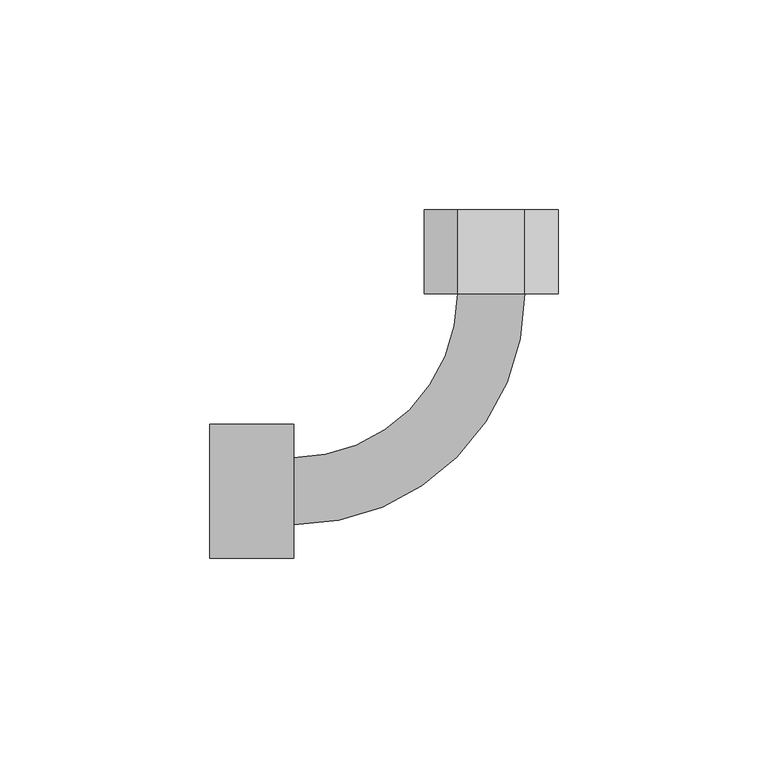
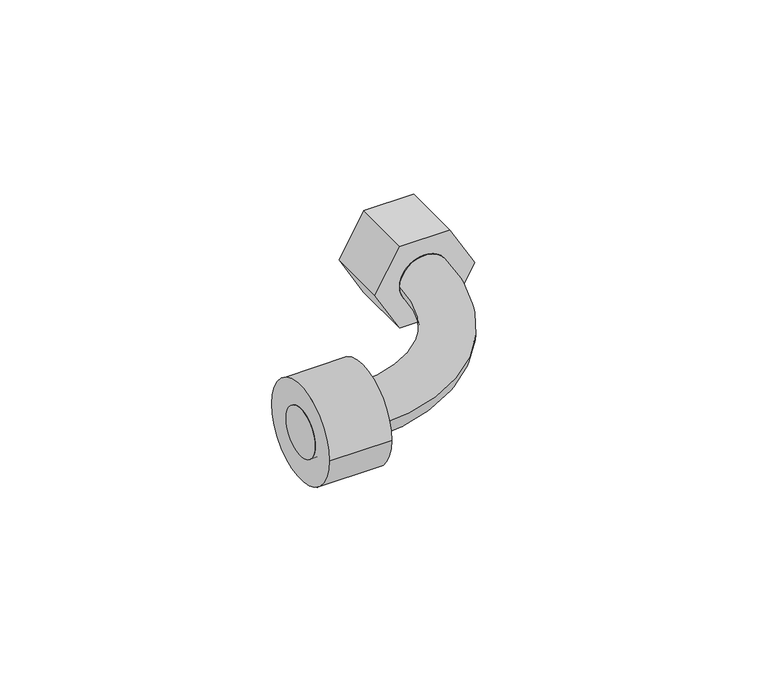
"""IFC4 building model written with IfcOpenShell, lengths in millimetres: cable carrier fitting geometry, Муфта гибкая труба-коробка CXS : Муфта гибкая труба-коробка CXS."""

from ifc_helpers import new_model, si_unit, point, frame, origin, origin_2d, place, context, project, spatial, polyline, circle_curve, ellipse_curve, trimmed, segment, composite_curve, outline, extrude, source, transform, mapped, element, save
from ifc_brep_helpers import plane_surface, cylinder_surface, revolved_surface, advanced_brep


def cable_carrier_fitting_6bc16285(model_context):
    return source(origin(), model_context, "Body", "SolidModel", [
        advanced_brep(
        [(-67.0814, -7.99973, 0.0), (-67.0814, 7.99973, 0.0), (-47.0916, -7.99973, 0.0), (-47.0916, 7.99973, 0.0), (-7.99973, 47.0916, 0.0), (7.99973, 47.0916, 0.0), (7.99973, 67.0814, 0.0), (-7.99973, 67.0814, 0.0)],
        [
            (0, 1, circle_curve(frame((-67.0814, 0.0, 0.0), z_axis=(-1.0, 0.0, 0.0), x_axis=(0.0, 1.0, 0.0)), 7.99973)),
            (1, 0, circle_curve(frame((-67.0814, 0.0, 0.0), z_axis=(-1.0, 0.0, 0.0), x_axis=(0.0, 1.0, 0.0)), 7.99973)),
            (0, 2),
            (2, 3, circle_curve(frame((-47.0916, 0.0, 0.0), z_axis=(-1.0, 0.0, 0.0), x_axis=(0.0, 1.0, 0.0)), 7.99973)),
            (3, 1),
            (3, 2, circle_curve(frame((-47.0916, 0.0, 0.0), z_axis=(-1.0, 0.0, 0.0), x_axis=(0.0, 1.0, 0.0)), 7.99973)),
            (4, 3, circle_curve(frame((-47.0916, 47.0916, 0.0), z_axis=(0.0, 0.0, -1.0), x_axis=(0.0, -1.0, 0.0)), 39.09187)),
            (2, 5, circle_curve(frame((-47.0916, 47.0916, 0.0), z_axis=(0.0, 0.0, 1.0), x_axis=(0.0, -1.0, 0.0)), 55.09133)),
            (5, 4, circle_curve(frame((0.0, 47.0916, 0.0), z_axis=(0.0, -1.0, 0.0), x_axis=(-1.0, 0.0, 0.0)), 7.99973)),
            (4, 5, circle_curve(frame((0.0, 47.0916, 0.0), z_axis=(0.0, -1.0, 0.0), x_axis=(-1.0, 0.0, 0.0)), 7.99973)),
            (6, 7, circle_curve(frame((0.0, 67.0814, 0.0), z_axis=(0.0, 1.0, 0.0), x_axis=(-1.0, 0.0, 0.0)), 7.99973)),
            (7, 6, circle_curve(frame((0.0, 67.0814, 0.0), z_axis=(0.0, 1.0, 0.0), x_axis=(-1.0, 0.0, 0.0)), 7.99973)),
            (5, 6),
            (7, 4),
        ],
        [
            plane_surface(frame((-67.0814, 0.0, 0.0), z_axis=(-1.0, 0.0, 0.0), x_axis=(0.0, 0.0, 1.0))),
            cylinder_surface(frame((-67.0814, 0.0, 0.0), z_axis=(-1.0, 0.0, 0.0), x_axis=(0.0, 1.0, 0.0)), 7.99973),
            revolved_surface(trimmed(ellipse_curve(frame((-47.0916, 0.0, 0.0), z_axis=(-1.0, 0.0, 0.0), x_axis=(0.0, 1.0, 0.0)), 7.99973, 7.99973), [point((-47.0916, -7.99973, 0.0))], [point((-47.0916, 7.99973, 0.0))], True, "CARTESIAN"), (-47.0916, 47.0916, 0.0), (0.0, 0.0, 1.0)),
            revolved_surface(trimmed(ellipse_curve(frame((-47.0916, 0.0, 0.0), z_axis=(-1.0, 0.0, 0.0), x_axis=(0.0, 1.0, 0.0)), 7.99973, 7.99973), [point((-47.0916, 7.99973, 0.0))], [point((-47.0916, -7.99973, 0.0))], True, "CARTESIAN"), (-47.0916, 47.0916, 0.0), (0.0, 0.0, 1.0)),
            plane_surface(frame((0.0, 67.0814, 0.0), z_axis=(0.0, 1.0, 0.0), x_axis=(0.0, 0.0, 1.0))),
            cylinder_surface(frame((0.0, 47.0916, 0.0), z_axis=(0.0, -1.0, 0.0), x_axis=(-1.0, 0.0, 0.0)), 7.99973),
        ],
        [
            (0, [[1, 2]]),
            (1, [[-1, 3, 4, 5]]),
            (1, [[-2, -5, 6, -3]]),
            (2, [[7, -4, 8, 9]]),
            (3, [[-8, -6, -7, 10]]),
            (4, [[11, 12]]),
            (5, [[-9, 13, -12, 14]]),
            (5, [[-10, -14, -11, -13]]),
        ],
    ),
        extrude(outline(composite_curve([segment(trimmed(circle_curve(origin_2d(), 16.0), [point((-16.0, 0.0))], [point((16.0, 0.0))], False, "CARTESIAN"), True, "CONTINUOUS"), segment(trimmed(circle_curve(origin_2d(), 16.0), [point((16.0, 0.0))], [point((-16.0, 0.0))], False, "CARTESIAN"), True, "CONTINUOUS")], self_intersect=False)), frame((-67.0814, 0.0, 0.0), z_axis=(1.0, 0.0, 0.0), x_axis=(0.0, 1.0, 0.0)), (0.0, 0.0, 1.0), 19.9898),
        extrude(outline(polyline([(-13.8564065, 8.0), (0.0, 16.0), (13.8564065, 8.0), (13.8564065, -8.0), (0.0, -16.0), (-13.8564065, -8.0), (-13.8564065, 8.0)])), frame((0.0, 47.0916, 0.0), z_axis=(0.0, 1.0, 0.0), x_axis=(0.0, 0.0, 1.0)), (0.0, 0.0, 1.0), 19.9898),
    ])


if __name__ == "__main__":
    model = new_model("IFC4")
    model_context = context("Model", 3, world=origin())
    ifc_project = project(units=[si_unit("LENGTHUNIT", "METRE", prefix="MILLI")], contexts=[model_context])
    site = spatial("IfcSite", under=ifc_project)
    building = spatial("IfcBuilding", under=site)
    placement = place(None, origin())
    cable_carrier_fitting_shape = cable_carrier_fitting_6bc16285(model_context)
    element("IfcCableCarrierFitting", 1, ObjectType="Муфта гибкая труба-коробка CXS : Муфта гибкая труба-коробка CXS", at=placement, inside=building, context=model_context, shape_type="MappedRepresentation", body=[
        mapped(cable_carrier_fitting_shape, transform((0.0, 0.0, 0.0), x_axis=(1.0, 0.0, 0.0), y_axis=(0.0, 1.0, 0.0), z_axis=(0.0, 0.0, 1.0))),
    ])
    save(model, "model.ifc")
